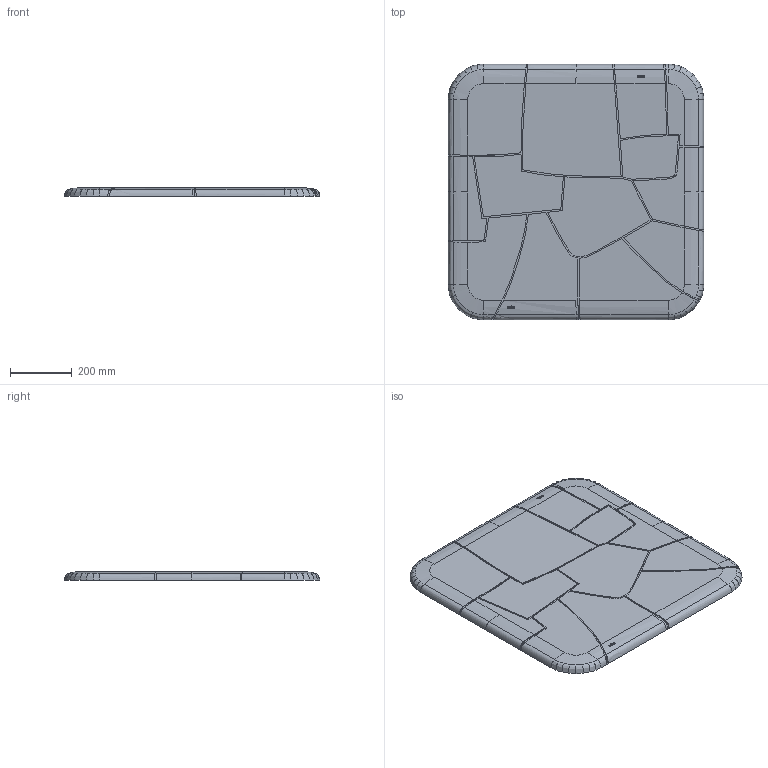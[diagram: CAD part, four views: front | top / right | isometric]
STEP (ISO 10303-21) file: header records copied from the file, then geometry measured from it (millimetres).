
FILE_DESCRIPTION(/* description */ (''),/* implementation_level */ '2;1');
FILE_NAME(/* name */ 'tabletop',/* time_stamp */ '2021-01-22T12:54:51+03:00',/* author */ (''),/* organization */ (''),/* preprocessor_version */ 'ST-DEVELOPER v16.5',/* originating_system */ '',/* authorisation */ '');
FILE_SCHEMA (('CONFIG_CONTROL_DESIGN'));
Length unit declared in the file: millimetre
Products named in the file (1): Document
Bounding box: 827.49 x 827.49 x 28.6 mm (x, y, z)
Surface area: 1563323.8 mm2
Topology: 18 solids, 19 shells, 784 faces, 2092 edges, 1352 vertices
Faces by surface type: bspline 468, plane 252, cylinder 64
Entity records: 58961 total; most frequent: CARTESIAN_POINT 45829, ORIENTED_EDGE 4177, EDGE_CURVE 2092, B_SPLINE_CURVE_WITH_KNOTS 1676, VERTEX_POINT 1352, EDGE_LOOP 804, ADVANCED_FACE 784, FACE_OUTER_BOUND 784
